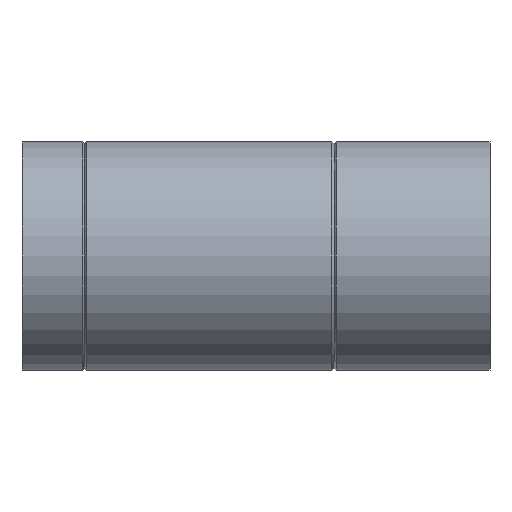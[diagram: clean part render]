
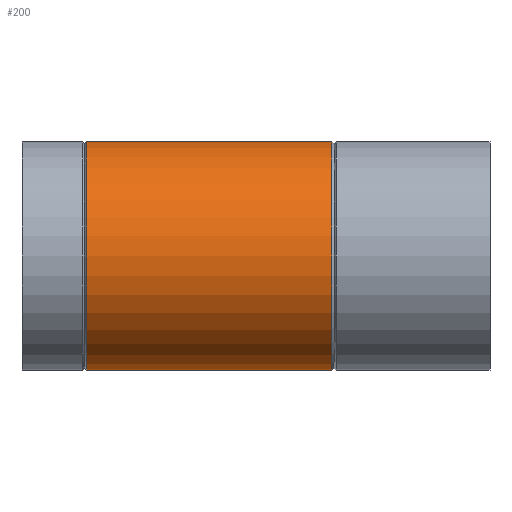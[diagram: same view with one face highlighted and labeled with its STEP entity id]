
A CAD part, left-side view. The second image highlights one B-rep face of the part: STEP entity #200.
In plain terms, the highlighted cylindrical face has radius 55 mm (diameter 110 mm), a full revolution.
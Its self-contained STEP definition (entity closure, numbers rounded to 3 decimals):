
#15=B_SPLINE_CURVE_WITH_KNOTS($,3,(#325,#326,#327,#328,#329,#330,#331,#332,
#333,#334,#335,#336,#337,#338,#339,#340,#341,#342,#343,#344,#345,#346,#347,
#348,#349,#350,#351,#352,#353,#354,#355,#356,#357,#358,#359,#360,#361,#362,
#363,#364,#365,#366,#367,#368,#369,#370,#371,#372,#373,#374,#375,#376,#377,
#378,#379,#380,#381,#382,#383,#384,#385,#386,#387,#388,#389,#390),
 .UNSPECIFIED.,.T.,.F.,(4,2,2,2,2,2,2,2,2,2,2,2,2,2,2,2,2,2,2,2,2,2,2,2,
2,2,2,2,2,2,2,2,4),(0.,0.94,1.88,2.82,
3.76,4.657,5.554,6.451,7.348,
8.245,9.142,10.038,10.935,11.875,
12.815,13.755,14.695,15.616,16.537,
17.458,18.379,19.276,20.173,21.069,
21.966,22.863,23.759,24.656,25.553,
26.474,27.395,28.315,29.236),
 .UNSPECIFIED.);
#17=CYLINDRICAL_SURFACE($,#222,55.);
#26=FACE_BOUND($,#63,.T.);
#27=FACE_BOUND($,#64,.T.);
#48=FACE_OUTER_BOUND($,#62,.T.);
#62=EDGE_LOOP($,(#145));
#63=EDGE_LOOP($,(#146));
#64=EDGE_LOOP($,(#147));
#94=CIRCLE($,#221,55.);
#95=CIRCLE($,#223,55.);
#109=VERTEX_POINT($,#319);
#110=VERTEX_POINT($,#322);
#111=VERTEX_POINT($,#324);
#126=EDGE_CURVE($,#109,#109,#94,.T.);
#127=EDGE_CURVE($,#110,#110,#95,.T.);
#128=EDGE_CURVE($,#111,#111,#15,.T.);
#145=ORIENTED_EDGE($,*,*,#127,.T.);
#146=ORIENTED_EDGE($,*,*,#128,.T.);
#147=ORIENTED_EDGE($,*,*,#126,.T.);
#200=ADVANCED_FACE($,(#48,#26,#27),#17,.T.);
#221=AXIS2_PLACEMENT_3D($,#320,#258,#259);
#222=AXIS2_PLACEMENT_3D($,#321,#260,#261);
#223=AXIS2_PLACEMENT_3D($,#323,#262,#263);
#258=DIRECTION('center_axis',(0.,-1.,0.));
#259=DIRECTION('ref_axis',(1.,0.,0.));
#260=DIRECTION('center_axis',(0.,1.,0.));
#261=DIRECTION('ref_axis',(1.,0.,0.));
#262=DIRECTION('center_axis',(0.,1.,0.));
#263=DIRECTION('ref_axis',(1.,0.,0.));
#319=CARTESIAN_POINT('',(55.,193.9,0.));
#320=CARTESIAN_POINT('Origin',(0.,193.9,0.));
#321=CARTESIAN_POINT('Origin',(0.,0.,0.));
#322=CARTESIAN_POINT('',(-55.,76.1,0.));
#323=CARTESIAN_POINT('Origin',(0.,76.1,0.));
#324=CARTESIAN_POINT('',(31.623,135.828,45.));
#325=CARTESIAN_POINT('Ctrl Pts',(31.623,135.828,45.));
#326=CARTESIAN_POINT('Ctrl Pts',(31.623,138.962,45.));
#327=CARTESIAN_POINT('Ctrl Pts',(32.1,142.048,44.673));
#328=CARTESIAN_POINT('Ctrl Pts',(33.75,148.02,43.439));
#329=CARTESIAN_POINT('Ctrl Pts',(34.914,150.907,42.533));
#330=CARTESIAN_POINT('Ctrl Pts',(37.563,156.4,40.214));
#331=CARTESIAN_POINT('Ctrl Pts',(39.046,159.009,38.798));
#332=CARTESIAN_POINT('Ctrl Pts',(42.027,163.854,35.547));
#333=CARTESIAN_POINT('Ctrl Pts',(43.526,166.09,33.71));
#334=CARTESIAN_POINT('Ctrl Pts',(46.247,169.995,29.858));
#335=CARTESIAN_POINT('Ctrl Pts',(47.581,171.826,27.716));
#336=CARTESIAN_POINT('Ctrl Pts',(50.039,175.118,22.982));
#337=CARTESIAN_POINT('Ctrl Pts',(51.163,176.58,20.391));
#338=CARTESIAN_POINT('Ctrl Pts',(53.024,178.972,14.895));
#339=CARTESIAN_POINT('Ctrl Pts',(53.763,179.904,11.983));
#340=CARTESIAN_POINT('Ctrl Pts',(54.752,181.146,6.031));
#341=CARTESIAN_POINT('Ctrl Pts',(55.,181.456,2.99));
#342=CARTESIAN_POINT('Ctrl Pts',(55.,181.456,-2.99));
#343=CARTESIAN_POINT('Ctrl Pts',(54.752,181.146,-6.031));
#344=CARTESIAN_POINT('Ctrl Pts',(53.763,179.904,-11.983));
#345=CARTESIAN_POINT('Ctrl Pts',(53.024,178.972,-14.895));
#346=CARTESIAN_POINT('Ctrl Pts',(51.163,176.58,-20.391));
#347=CARTESIAN_POINT('Ctrl Pts',(50.039,175.118,-22.982));
#348=CARTESIAN_POINT('Ctrl Pts',(47.581,171.826,-27.716));
#349=CARTESIAN_POINT('Ctrl Pts',(46.247,169.995,-29.858));
#350=CARTESIAN_POINT('Ctrl Pts',(43.526,166.09,-33.71));
#351=CARTESIAN_POINT('Ctrl Pts',(42.027,163.854,-35.547));
#352=CARTESIAN_POINT('Ctrl Pts',(39.046,159.009,-38.798));
#353=CARTESIAN_POINT('Ctrl Pts',(37.563,156.4,-40.214));
#354=CARTESIAN_POINT('Ctrl Pts',(34.914,150.907,-42.533));
#355=CARTESIAN_POINT('Ctrl Pts',(33.75,148.02,-43.439));
#356=CARTESIAN_POINT('Ctrl Pts',(32.1,142.048,-44.673));
#357=CARTESIAN_POINT('Ctrl Pts',(31.623,138.962,-45.));
#358=CARTESIAN_POINT('Ctrl Pts',(31.623,132.758,-45.));
#359=CARTESIAN_POINT('Ctrl Pts',(32.083,129.73,-44.685));
#360=CARTESIAN_POINT('Ctrl Pts',(33.702,123.886,-43.476));
#361=CARTESIAN_POINT('Ctrl Pts',(34.852,121.066,-42.584));
#362=CARTESIAN_POINT('Ctrl Pts',(37.479,115.72,-40.291));
#363=CARTESIAN_POINT('Ctrl Pts',(38.954,113.189,-38.889));
#364=CARTESIAN_POINT('Ctrl Pts',(41.924,108.5,-35.668));
#365=CARTESIAN_POINT('Ctrl Pts',(43.418,106.344,-33.847));
#366=CARTESIAN_POINT('Ctrl Pts',(46.157,102.548,-30.));
#367=CARTESIAN_POINT('Ctrl Pts',(47.51,100.758,-27.839));
#368=CARTESIAN_POINT('Ctrl Pts',(50.001,97.55,-23.068));
#369=CARTESIAN_POINT('Ctrl Pts',(51.137,96.132,-20.458));
#370=CARTESIAN_POINT('Ctrl Pts',(53.015,93.816,-14.93));
#371=CARTESIAN_POINT('Ctrl Pts',(53.759,92.917,-12.005));
#372=CARTESIAN_POINT('Ctrl Pts',(54.752,91.721,-6.035));
#373=CARTESIAN_POINT('Ctrl Pts',(55.,91.425,-2.989));
#374=CARTESIAN_POINT('Ctrl Pts',(55.,91.425,2.989));
#375=CARTESIAN_POINT('Ctrl Pts',(54.752,91.721,6.035));
#376=CARTESIAN_POINT('Ctrl Pts',(53.759,92.917,12.005));
#377=CARTESIAN_POINT('Ctrl Pts',(53.015,93.816,14.93));
#378=CARTESIAN_POINT('Ctrl Pts',(51.137,96.132,20.458));
#379=CARTESIAN_POINT('Ctrl Pts',(50.001,97.55,23.068));
#380=CARTESIAN_POINT('Ctrl Pts',(47.51,100.758,27.839));
#381=CARTESIAN_POINT('Ctrl Pts',(46.157,102.548,30.));
#382=CARTESIAN_POINT('Ctrl Pts',(43.418,106.344,33.847));
#383=CARTESIAN_POINT('Ctrl Pts',(41.924,108.5,35.668));
#384=CARTESIAN_POINT('Ctrl Pts',(38.954,113.189,38.889));
#385=CARTESIAN_POINT('Ctrl Pts',(37.479,115.72,40.291));
#386=CARTESIAN_POINT('Ctrl Pts',(34.852,121.066,42.584));
#387=CARTESIAN_POINT('Ctrl Pts',(33.702,123.886,43.476));
#388=CARTESIAN_POINT('Ctrl Pts',(32.083,129.73,44.685));
#389=CARTESIAN_POINT('Ctrl Pts',(31.623,132.758,45.));
#390=CARTESIAN_POINT('Ctrl Pts',(31.623,135.828,45.));
